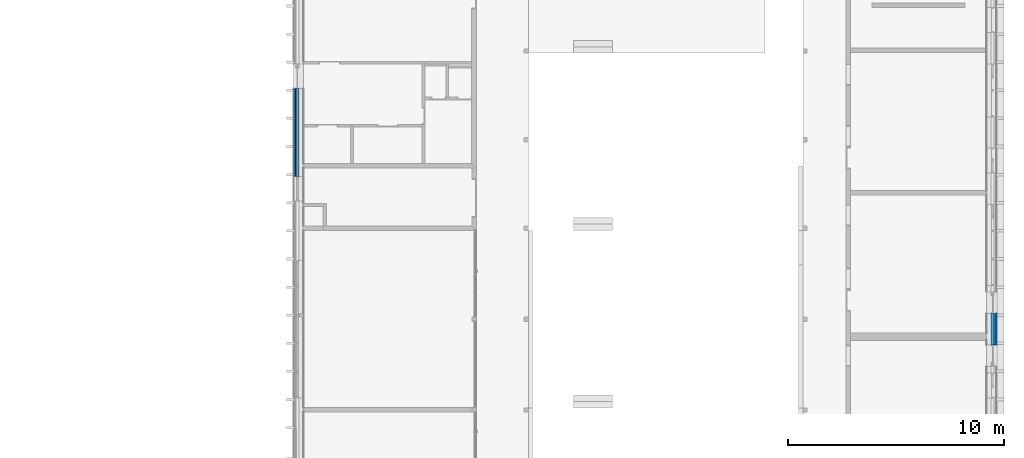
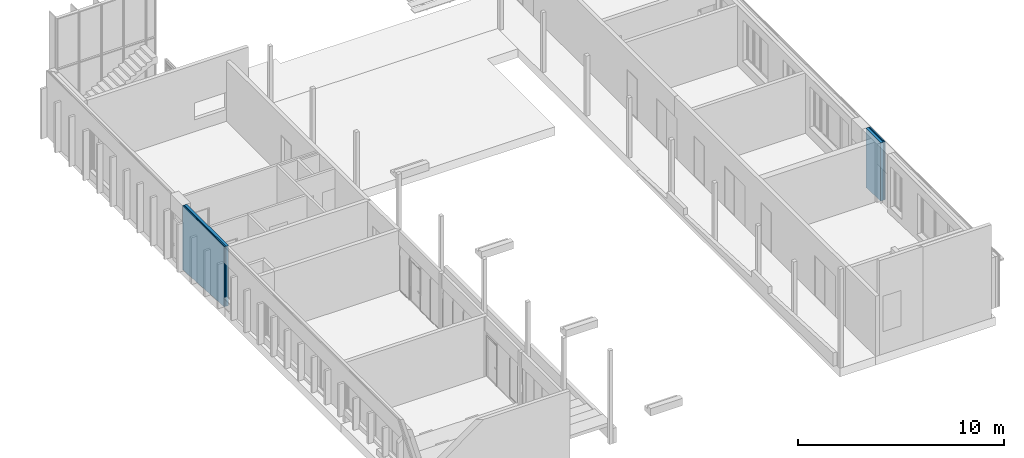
# One storey, part 37 of 65: 7 building element parts, 2 elements without a shape of their own.
"""IFC2X3 building model written with IfcOpenShell, lengths in millimetres."""

from ifc_helpers import new_model, entity, si_unit, converted_unit, derived_unit, money_unit, direction, frame, origin_with_axes, place, context, subcontext, project, spatial, polyline, outline, extrude, boolean, faceted_brep, material, type_object, element, aggregate, save


model = new_model("IFC2X3")

# Units and contexts
model_context = context("Model", 3, precision=0.01, world=origin_with_axes(), true_north=direction((0.0, 1.0)))
body_context = subcontext(model_context, "Body", "Model", "MODEL_VIEW")
ifc_project = project(units=[si_unit("LENGTHUNIT", "METRE", prefix="MILLI"), si_unit("AREAUNIT", "SQUARE_METRE"), si_unit("VOLUMEUNIT", "CUBIC_METRE"), converted_unit("PLANEANGLEUNIT", "DEGREE", entity("IfcPlaneAngleMeasure", 0.0174532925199), si_unit("PLANEANGLEUNIT", "RADIAN"), dimensions=[0, 0, 0, 0, 0, 0, 0]), si_unit("SOLIDANGLEUNIT", "STERADIAN"), money_unit("EUR"), converted_unit("TIMEUNIT", "Year", entity("IfcTimeMeasure", 31556926.0), si_unit("TIMEUNIT", "SECOND"), dimensions=[0, 0, 1, 0, 0, 0, 0]), si_unit("MASSUNIT", "GRAM", prefix="KILO"), si_unit("THERMODYNAMICTEMPERATUREUNIT", "DEGREE_CELSIUS"), si_unit("LUMINOUSINTENSITYUNIT", "LUMEN"), si_unit("ENERGYUNIT", "JOULE", prefix="MEGA"), derived_unit("THERMALCONDUCTANCEUNIT", [(si_unit("POWERUNIT", "WATT"), 1), (si_unit("LENGTHUNIT", "METRE"), -1), (si_unit("THERMODYNAMICTEMPERATUREUNIT", "KELVIN"), -1)]), derived_unit("SPECIFICHEATCAPACITYUNIT", [(si_unit("ENERGYUNIT", "JOULE"), 1), (si_unit("MASSUNIT", "GRAM", prefix="KILO"), -1), (si_unit("THERMODYNAMICTEMPERATUREUNIT", "KELVIN"), -1)]), derived_unit("MASSDENSITYUNIT", [(si_unit("MASSUNIT", "GRAM", prefix="KILO"), 1), (si_unit("VOLUMEUNIT", "CUBIC_METRE"), -1)])], contexts=[model_context])

# Site, building, storey
site_placement = place(None, origin_with_axes())
site = spatial("IfcSite", under=ifc_project, at=site_placement, Name="Puškini 31, Narva", CompositionType="ELEMENT")
building_placement = place(site_placement, origin_with_axes())
building = spatial("IfcBuilding", under=site, at=building_placement, Name="Narva Riigigümnaasium", CompositionType="ELEMENT")
storey_placement = place(building_placement, frame((0.0, 0.0, -1320.0), z_axis=(0.0, 0.0, 1.0), x_axis=(1.0, 0.0, 0.0)))
storey = spatial("IfcBuildingStorey", under=building, at=storey_placement, Name="1.korrus -1.32", CompositionType="ELEMENT", Elevation=-1320.0)

# Wall, building element parts
wall_type = type_object("IfcWallType", Name="G-VS-01 468", PredefinedType="NOTDEFINED")
wall_1_placement = place(storey_placement, frame((54000.000001, 171560.151272, -1980.0), z_axis=(0.0, 0.0, 1.0), x_axis=(0.0, -1.0, 0.0)))
wall_1 = element("IfcWall", 1, at=wall_1_placement, inside=storey, type_object=wall_type, Name="Välissein")
ifc_material_1 = material(Name="Salto-PIR soojustus")
building_element_part_1_placement = place(wall_1_placement, origin_with_axes())
building_element_part_1 = element("IfcBuildingElementPart", 2, at=building_element_part_1_placement, material=ifc_material_1, Name="Salto-PIR soojustus", context=body_context, shape_type="CSG", body=[
    boolean("DIFFERENCE", boolean("DIFFERENCE", boolean("DIFFERENCE", boolean("DIFFERENCE", boolean("DIFFERENCE", boolean("DIFFERENCE", boolean("DIFFERENCE", extrude(outline(polyline([(0.0, 200.0), (1450.0, 200.0), (1450.0, 350.0), (0.0, 350.0), (0.0, 200.0)])), origin_with_axes(), (0.0, 0.0, 1.0), 5539.82248474), faceted_brep([(900.151287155, 0.0, 2070.15306783), (900.151287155, 0.0, 5535.0), (0.0, 0.0, 5535.0), (0.0, 0.0, 5539.82248474), (1450.0, 0.0, 5539.82248474), (1450.0, 0.0, 5535.0), (1245.15128715, 0.0, 5535.0), (1245.15128715, 0.0, 2083.35957896), (1450.0, 0.0, 2091.20113492), (1450.0, 0.0, 0.0), (0.0, 0.0, 0.0), (0.0, 0.0, 2035.69550845), (900.151287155, -10.0, 2070.15306783), (900.151287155, -10.0, 5535.0), (0.0, -10.0, 5535.0), (0.0, -10.0, 5539.82248474), (1450.0, -10.0, 5539.82248474), (1450.0, -10.0, 5535.0), (1245.15128715, -10.0, 5535.0), (1245.15128715, -10.0, 2083.35957896), (1450.0, -10.0, 2091.20113492), (1450.0, -10.0, 0.0), (0.0, -10.0, 0.0), (0.0, -10.0, 2035.69550845)], [[[0, 1, 2, 3, 4, 5, 6, 7, 8, 9, 10, 11]], [[1, 0, 12, 13]], [[14, 2, 1, 13]], [[2, 14, 15, 3]], [[3, 15, 16, 4]], [[17, 5, 4, 16]], [[5, 17, 18, 6]], [[7, 6, 18, 19]], [[8, 7, 19, 20]], [[8, 20, 21, 9]], [[21, 22, 10, 9]], [[23, 11, 10, 22]], [[0, 11, 23, 12]], [[12, 23, 22, 21, 20, 19, 18, 17, 16, 15, 14, 13]]])), faceted_brep([(0.0, 0.0, 2035.69550845), (0.0, 199.99999771, 2035.69550845), (0.0, 200.0, 0.0), (0.0, 0.0, 0.0), (1450.0, 199.999997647, 2091.20113492), (900.151287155, 0.0, 2070.15306783), (1245.15128715, 0.0, 2083.35957896), (1450.0, 0.0, 2091.20113492), (1450.0, 200.0, 0.0), (1450.0, 0.0, 0.0)], [[[0, 1, 2, 3]], [[4, 1, 0, 5, 6, 7]], [[1, 4, 8, 2]], [[9, 3, 2, 8]], [[5, 0, 3, 9, 7, 6]], [[4, 7, 9, 8]]])), faceted_brep([(1450.0, 199.999993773, 5535.0), (0.0, 199.999993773, 5535.0), (0.0, 200.0, 5539.82248474), (1450.0, 200.0, 5539.82248474), (0.0, 0.0, 5535.0), (1450.0, 0.0, 5535.0), (0.0, 0.0, 5539.82248474), (1450.0, 0.0, 5539.82248474)], [[[0, 1, 2, 3]], [[4, 1, 0, 5]], [[1, 4, 6, 2]], [[2, 6, 7, 3]], [[5, 0, 3, 7]], [[5, 7, 6, 4]]])), faceted_brep([(0.0, 199.99999771, 2035.69550845), (0.0, 350.0, 2035.69550845), (0.0, 350.0, 0.0), (0.0, 200.0, 0.0), (1450.0, 350.0, 2091.20113492), (1450.0, 199.999997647, 2091.20113492), (1450.0, 350.0, 0.0), (1450.0, 200.0, 0.0)], [[[0, 1, 2, 3]], [[4, 1, 0, 5]], [[1, 4, 6, 2]], [[7, 3, 2, 6]], [[5, 0, 3, 7]], [[4, 5, 7, 6]]])), faceted_brep([(0.0, 350.0, 2035.69550845), (0.0, 400.0, 2035.69550845), (0.0, 400.0, 0.0), (0.0, 350.0, 0.0), (1450.0, 400.0, 2091.20113492), (1450.0, 350.0, 2091.20113492), (1450.0, 400.0, 0.0), (1450.0, 350.0, 0.0)], [[[0, 1, 2, 3]], [[4, 1, 0, 5]], [[1, 4, 6, 2]], [[7, 3, 2, 6]], [[5, 0, 3, 7]], [[4, 5, 7, 6]]])), faceted_brep([(0.0, 400.0, 2035.69550845), (0.0, 450.0, 2035.69550845), (0.0, 450.0, 0.0), (0.0, 400.0, 0.0), (1450.0, 450.0, 2091.20113492), (1450.0, 400.0, 2091.20113492), (1450.0, 450.0, 0.0), (1450.0, 400.0, 0.0)], [[[0, 1, 2, 3]], [[4, 1, 0, 5]], [[1, 4, 6, 2]], [[7, 3, 2, 6]], [[5, 0, 3, 7]], [[4, 5, 7, 6]]])), faceted_brep([(0.0, 450.0, 2035.69550845), (0.0, 458.0, 2035.69550845), (0.0, 458.0, 0.0), (0.0, 450.0, 0.0), (1450.0, 458.0, 2091.20113492), (1450.0, 450.0, 2091.20113492), (1450.0, 458.0, 0.0), (1450.0, 450.0, 0.0)], [[[0, 1, 2, 3]], [[4, 1, 0, 5]], [[1, 4, 6, 2]], [[7, 3, 2, 6]], [[5, 0, 3, 7]], [[4, 5, 7, 6]]])),
])
building_element_part_2_placement = place(wall_1_placement, origin_with_axes())
building_element_part_2 = element("IfcBuildingElementPart", 3, at=building_element_part_2_placement, material=ifc_material_1, Name="Salto-PIR soojustus", context=body_context, shape_type="CSG", body=[
    boolean("DIFFERENCE", boolean("DIFFERENCE", boolean("DIFFERENCE", boolean("DIFFERENCE", boolean("DIFFERENCE", boolean("DIFFERENCE", boolean("DIFFERENCE", extrude(outline(polyline([(0.0, 350.0), (1450.0, 350.0), (1450.0, 400.0), (0.0, 400.0), (0.0, 350.0)])), origin_with_axes(), (0.0, 0.0, 1.0), 5539.82248474), faceted_brep([(900.151287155, 0.0, 2070.15306783), (900.151287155, 0.0, 5535.0), (0.0, 0.0, 5535.0), (0.0, 0.0, 5539.82248474), (1450.0, 0.0, 5539.82248474), (1450.0, 0.0, 5535.0), (1245.15128715, 0.0, 5535.0), (1245.15128715, 0.0, 2083.35957896), (1450.0, 0.0, 2091.20113492), (1450.0, 0.0, 0.0), (0.0, 0.0, 0.0), (0.0, 0.0, 2035.69550845), (900.151287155, -10.0, 2070.15306783), (900.151287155, -10.0, 5535.0), (0.0, -10.0, 5535.0), (0.0, -10.0, 5539.82248474), (1450.0, -10.0, 5539.82248474), (1450.0, -10.0, 5535.0), (1245.15128715, -10.0, 5535.0), (1245.15128715, -10.0, 2083.35957896), (1450.0, -10.0, 2091.20113492), (1450.0, -10.0, 0.0), (0.0, -10.0, 0.0), (0.0, -10.0, 2035.69550845)], [[[0, 1, 2, 3, 4, 5, 6, 7, 8, 9, 10, 11]], [[1, 0, 12, 13]], [[14, 2, 1, 13]], [[2, 14, 15, 3]], [[3, 15, 16, 4]], [[17, 5, 4, 16]], [[5, 17, 18, 6]], [[7, 6, 18, 19]], [[8, 7, 19, 20]], [[8, 20, 21, 9]], [[21, 22, 10, 9]], [[23, 11, 10, 22]], [[0, 11, 23, 12]], [[12, 23, 22, 21, 20, 19, 18, 17, 16, 15, 14, 13]]])), faceted_brep([(0.0, 0.0, 2035.69550845), (0.0, 199.99999771, 2035.69550845), (0.0, 200.0, 0.0), (0.0, 0.0, 0.0), (1450.0, 199.999997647, 2091.20113492), (900.151287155, 0.0, 2070.15306783), (1245.15128715, 0.0, 2083.35957896), (1450.0, 0.0, 2091.20113492), (1450.0, 200.0, 0.0), (1450.0, 0.0, 0.0)], [[[0, 1, 2, 3]], [[4, 1, 0, 5, 6, 7]], [[1, 4, 8, 2]], [[9, 3, 2, 8]], [[5, 0, 3, 9, 7, 6]], [[4, 7, 9, 8]]])), faceted_brep([(1450.0, 199.999993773, 5535.0), (0.0, 199.999993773, 5535.0), (0.0, 200.0, 5539.82248474), (1450.0, 200.0, 5539.82248474), (0.0, 0.0, 5535.0), (1450.0, 0.0, 5535.0), (0.0, 0.0, 5539.82248474), (1450.0, 0.0, 5539.82248474)], [[[0, 1, 2, 3]], [[4, 1, 0, 5]], [[1, 4, 6, 2]], [[2, 6, 7, 3]], [[5, 0, 3, 7]], [[5, 7, 6, 4]]])), faceted_brep([(0.0, 199.99999771, 2035.69550845), (0.0, 350.0, 2035.69550845), (0.0, 350.0, 0.0), (0.0, 200.0, 0.0), (1450.0, 350.0, 2091.20113492), (1450.0, 199.999997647, 2091.20113492), (1450.0, 350.0, 0.0), (1450.0, 200.0, 0.0)], [[[0, 1, 2, 3]], [[4, 1, 0, 5]], [[1, 4, 6, 2]], [[7, 3, 2, 6]], [[5, 0, 3, 7]], [[4, 5, 7, 6]]])), faceted_brep([(0.0, 350.0, 2035.69550845), (0.0, 400.0, 2035.69550845), (0.0, 400.0, 0.0), (0.0, 350.0, 0.0), (1450.0, 400.0, 2091.20113492), (1450.0, 350.0, 2091.20113492), (1450.0, 400.0, 0.0), (1450.0, 350.0, 0.0)], [[[0, 1, 2, 3]], [[4, 1, 0, 5]], [[1, 4, 6, 2]], [[7, 3, 2, 6]], [[5, 0, 3, 7]], [[4, 5, 7, 6]]])), faceted_brep([(0.0, 400.0, 2035.69550845), (0.0, 450.0, 2035.69550845), (0.0, 450.0, 0.0), (0.0, 400.0, 0.0), (1450.0, 450.0, 2091.20113492), (1450.0, 400.0, 2091.20113492), (1450.0, 450.0, 0.0), (1450.0, 400.0, 0.0)], [[[0, 1, 2, 3]], [[4, 1, 0, 5]], [[1, 4, 6, 2]], [[7, 3, 2, 6]], [[5, 0, 3, 7]], [[4, 5, 7, 6]]])), faceted_brep([(0.0, 450.0, 2035.69550845), (0.0, 458.0, 2035.69550845), (0.0, 458.0, 0.0), (0.0, 450.0, 0.0), (1450.0, 458.0, 2091.20113492), (1450.0, 450.0, 2091.20113492), (1450.0, 458.0, 0.0), (1450.0, 450.0, 0.0)], [[[0, 1, 2, 3]], [[4, 1, 0, 5]], [[1, 4, 6, 2]], [[7, 3, 2, 6]], [[5, 0, 3, 7]], [[4, 5, 7, 6]]])),
])
ifc_material_2 = material(Name="Salto-roovitus")
building_element_part_3_placement = place(wall_1_placement, origin_with_axes())
building_element_part_3 = element("IfcBuildingElementPart", 4, at=building_element_part_3_placement, material=ifc_material_2, Name="Salto-roovitus", context=body_context, shape_type="CSG", body=[
    boolean("DIFFERENCE", boolean("DIFFERENCE", boolean("DIFFERENCE", boolean("DIFFERENCE", boolean("DIFFERENCE", boolean("DIFFERENCE", boolean("DIFFERENCE", extrude(outline(polyline([(0.0, 400.0), (1450.0, 400.0), (1450.0, 450.0), (0.0, 450.0), (0.0, 400.0)])), origin_with_axes(), (0.0, 0.0, 1.0), 5539.82248474), faceted_brep([(900.151287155, 0.0, 2070.15306783), (900.151287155, 0.0, 5535.0), (0.0, 0.0, 5535.0), (0.0, 0.0, 5539.82248474), (1450.0, 0.0, 5539.82248474), (1450.0, 0.0, 5535.0), (1245.15128715, 0.0, 5535.0), (1245.15128715, 0.0, 2083.35957896), (1450.0, 0.0, 2091.20113492), (1450.0, 0.0, 0.0), (0.0, 0.0, 0.0), (0.0, 0.0, 2035.69550845), (900.151287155, -10.0, 2070.15306783), (900.151287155, -10.0, 5535.0), (0.0, -10.0, 5535.0), (0.0, -10.0, 5539.82248474), (1450.0, -10.0, 5539.82248474), (1450.0, -10.0, 5535.0), (1245.15128715, -10.0, 5535.0), (1245.15128715, -10.0, 2083.35957896), (1450.0, -10.0, 2091.20113492), (1450.0, -10.0, 0.0), (0.0, -10.0, 0.0), (0.0, -10.0, 2035.69550845)], [[[0, 1, 2, 3, 4, 5, 6, 7, 8, 9, 10, 11]], [[1, 0, 12, 13]], [[14, 2, 1, 13]], [[2, 14, 15, 3]], [[3, 15, 16, 4]], [[17, 5, 4, 16]], [[5, 17, 18, 6]], [[7, 6, 18, 19]], [[8, 7, 19, 20]], [[8, 20, 21, 9]], [[21, 22, 10, 9]], [[23, 11, 10, 22]], [[0, 11, 23, 12]], [[12, 23, 22, 21, 20, 19, 18, 17, 16, 15, 14, 13]]])), faceted_brep([(0.0, 0.0, 2035.69550845), (0.0, 199.99999771, 2035.69550845), (0.0, 200.0, 0.0), (0.0, 0.0, 0.0), (1450.0, 199.999997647, 2091.20113492), (900.151287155, 0.0, 2070.15306783), (1245.15128715, 0.0, 2083.35957896), (1450.0, 0.0, 2091.20113492), (1450.0, 200.0, 0.0), (1450.0, 0.0, 0.0)], [[[0, 1, 2, 3]], [[4, 1, 0, 5, 6, 7]], [[1, 4, 8, 2]], [[9, 3, 2, 8]], [[5, 0, 3, 9, 7, 6]], [[4, 7, 9, 8]]])), faceted_brep([(1450.0, 199.999993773, 5535.0), (0.0, 199.999993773, 5535.0), (0.0, 200.0, 5539.82248474), (1450.0, 200.0, 5539.82248474), (0.0, 0.0, 5535.0), (1450.0, 0.0, 5535.0), (0.0, 0.0, 5539.82248474), (1450.0, 0.0, 5539.82248474)], [[[0, 1, 2, 3]], [[4, 1, 0, 5]], [[1, 4, 6, 2]], [[2, 6, 7, 3]], [[5, 0, 3, 7]], [[5, 7, 6, 4]]])), faceted_brep([(0.0, 199.99999771, 2035.69550845), (0.0, 350.0, 2035.69550845), (0.0, 350.0, 0.0), (0.0, 200.0, 0.0), (1450.0, 350.0, 2091.20113492), (1450.0, 199.999997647, 2091.20113492), (1450.0, 350.0, 0.0), (1450.0, 200.0, 0.0)], [[[0, 1, 2, 3]], [[4, 1, 0, 5]], [[1, 4, 6, 2]], [[7, 3, 2, 6]], [[5, 0, 3, 7]], [[4, 5, 7, 6]]])), faceted_brep([(0.0, 350.0, 2035.69550845), (0.0, 400.0, 2035.69550845), (0.0, 400.0, 0.0), (0.0, 350.0, 0.0), (1450.0, 400.0, 2091.20113492), (1450.0, 350.0, 2091.20113492), (1450.0, 400.0, 0.0), (1450.0, 350.0, 0.0)], [[[0, 1, 2, 3]], [[4, 1, 0, 5]], [[1, 4, 6, 2]], [[7, 3, 2, 6]], [[5, 0, 3, 7]], [[4, 5, 7, 6]]])), faceted_brep([(0.0, 400.0, 2035.69550845), (0.0, 450.0, 2035.69550845), (0.0, 450.0, 0.0), (0.0, 400.0, 0.0), (1450.0, 450.0, 2091.20113492), (1450.0, 400.0, 2091.20113492), (1450.0, 450.0, 0.0), (1450.0, 400.0, 0.0)], [[[0, 1, 2, 3]], [[4, 1, 0, 5]], [[1, 4, 6, 2]], [[7, 3, 2, 6]], [[5, 0, 3, 7]], [[4, 5, 7, 6]]])), faceted_brep([(0.0, 450.0, 2035.69550845), (0.0, 458.0, 2035.69550845), (0.0, 458.0, 0.0), (0.0, 450.0, 0.0), (1450.0, 458.0, 2091.20113492), (1450.0, 450.0, 2091.20113492), (1450.0, 458.0, 0.0), (1450.0, 450.0, 0.0)], [[[0, 1, 2, 3]], [[4, 1, 0, 5]], [[1, 4, 6, 2]], [[7, 3, 2, 6]], [[5, 0, 3, 7]], [[4, 5, 7, 6]]])),
])
ifc_material_3 = material(Name="fassaadiplaat")
building_element_part_4_placement = place(wall_1_placement, origin_with_axes())
building_element_part_4 = element("IfcBuildingElementPart", 5, at=building_element_part_4_placement, material=ifc_material_3, Name="fassaadiplaat", context=body_context, shape_type="CSG", body=[
    boolean("DIFFERENCE", boolean("DIFFERENCE", boolean("DIFFERENCE", boolean("DIFFERENCE", boolean("DIFFERENCE", boolean("DIFFERENCE", boolean("DIFFERENCE", extrude(outline(polyline([(0.0, 450.0), (1450.0, 450.0), (1450.0, 458.0), (0.0, 458.0), (0.0, 450.0)])), origin_with_axes(), (0.0, 0.0, 1.0), 5539.82248474), faceted_brep([(900.151287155, 0.0, 2070.15306783), (900.151287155, 0.0, 5535.0), (0.0, 0.0, 5535.0), (0.0, 0.0, 5539.82248474), (1450.0, 0.0, 5539.82248474), (1450.0, 0.0, 5535.0), (1245.15128715, 0.0, 5535.0), (1245.15128715, 0.0, 2083.35957896), (1450.0, 0.0, 2091.20113492), (1450.0, 0.0, 0.0), (0.0, 0.0, 0.0), (0.0, 0.0, 2035.69550845), (900.151287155, -10.0, 2070.15306783), (900.151287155, -10.0, 5535.0), (0.0, -10.0, 5535.0), (0.0, -10.0, 5539.82248474), (1450.0, -10.0, 5539.82248474), (1450.0, -10.0, 5535.0), (1245.15128715, -10.0, 5535.0), (1245.15128715, -10.0, 2083.35957896), (1450.0, -10.0, 2091.20113492), (1450.0, -10.0, 0.0), (0.0, -10.0, 0.0), (0.0, -10.0, 2035.69550845)], [[[0, 1, 2, 3, 4, 5, 6, 7, 8, 9, 10, 11]], [[1, 0, 12, 13]], [[14, 2, 1, 13]], [[2, 14, 15, 3]], [[3, 15, 16, 4]], [[17, 5, 4, 16]], [[5, 17, 18, 6]], [[7, 6, 18, 19]], [[8, 7, 19, 20]], [[8, 20, 21, 9]], [[21, 22, 10, 9]], [[23, 11, 10, 22]], [[0, 11, 23, 12]], [[12, 23, 22, 21, 20, 19, 18, 17, 16, 15, 14, 13]]])), faceted_brep([(0.0, 0.0, 2035.69550845), (0.0, 199.99999771, 2035.69550845), (0.0, 200.0, 0.0), (0.0, 0.0, 0.0), (1450.0, 199.999997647, 2091.20113492), (900.151287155, 0.0, 2070.15306783), (1245.15128715, 0.0, 2083.35957896), (1450.0, 0.0, 2091.20113492), (1450.0, 200.0, 0.0), (1450.0, 0.0, 0.0)], [[[0, 1, 2, 3]], [[4, 1, 0, 5, 6, 7]], [[1, 4, 8, 2]], [[9, 3, 2, 8]], [[5, 0, 3, 9, 7, 6]], [[4, 7, 9, 8]]])), faceted_brep([(1450.0, 199.999993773, 5535.0), (0.0, 199.999993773, 5535.0), (0.0, 200.0, 5539.82248474), (1450.0, 200.0, 5539.82248474), (0.0, 0.0, 5535.0), (1450.0, 0.0, 5535.0), (0.0, 0.0, 5539.82248474), (1450.0, 0.0, 5539.82248474)], [[[0, 1, 2, 3]], [[4, 1, 0, 5]], [[1, 4, 6, 2]], [[2, 6, 7, 3]], [[5, 0, 3, 7]], [[5, 7, 6, 4]]])), faceted_brep([(0.0, 199.99999771, 2035.69550845), (0.0, 350.0, 2035.69550845), (0.0, 350.0, 0.0), (0.0, 200.0, 0.0), (1450.0, 350.0, 2091.20113492), (1450.0, 199.999997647, 2091.20113492), (1450.0, 350.0, 0.0), (1450.0, 200.0, 0.0)], [[[0, 1, 2, 3]], [[4, 1, 0, 5]], [[1, 4, 6, 2]], [[7, 3, 2, 6]], [[5, 0, 3, 7]], [[4, 5, 7, 6]]])), faceted_brep([(0.0, 350.0, 2035.69550845), (0.0, 400.0, 2035.69550845), (0.0, 400.0, 0.0), (0.0, 350.0, 0.0), (1450.0, 400.0, 2091.20113492), (1450.0, 350.0, 2091.20113492), (1450.0, 400.0, 0.0), (1450.0, 350.0, 0.0)], [[[0, 1, 2, 3]], [[4, 1, 0, 5]], [[1, 4, 6, 2]], [[7, 3, 2, 6]], [[5, 0, 3, 7]], [[4, 5, 7, 6]]])), faceted_brep([(0.0, 400.0, 2035.69550845), (0.0, 450.0, 2035.69550845), (0.0, 450.0, 0.0), (0.0, 400.0, 0.0), (1450.0, 450.0, 2091.20113492), (1450.0, 400.0, 2091.20113492), (1450.0, 450.0, 0.0), (1450.0, 400.0, 0.0)], [[[0, 1, 2, 3]], [[4, 1, 0, 5]], [[1, 4, 6, 2]], [[7, 3, 2, 6]], [[5, 0, 3, 7]], [[4, 5, 7, 6]]])), faceted_brep([(0.0, 450.0, 2035.69550845), (0.0, 458.0, 2035.69550845), (0.0, 458.0, 0.0), (0.0, 450.0, 0.0), (1450.0, 458.0, 2091.20113492), (1450.0, 450.0, 2091.20113492), (1450.0, 458.0, 0.0), (1450.0, 450.0, 0.0)], [[[0, 1, 2, 3]], [[4, 1, 0, 5]], [[1, 4, 6, 2]], [[7, 3, 2, 6]], [[5, 0, 3, 7]], [[4, 5, 7, 6]]])),
])
aggregate(wall_1, [building_element_part_1, building_element_part_2, building_element_part_3, building_element_part_4])

wall_2_placement = place(storey_placement, frame((22399.9999985, 177910.149991, -800.0), z_axis=(0.0, 0.0, 1.0), x_axis=(0.0, 1.0, 0.0)))
wall_2 = element("IfcWall", 6, at=wall_2_placement, inside=storey, type_object=wall_type, Name="Välissein")
building_element_part_5_placement = place(wall_2_placement, origin_with_axes())
building_element_part_5 = element("IfcBuildingElementPart", 7, at=building_element_part_5_placement, material=ifc_material_1, Name="Salto-PIR soojustus", context=body_context, shape_type="CSG", body=[
    boolean("DIFFERENCE", boolean("DIFFERENCE", boolean("DIFFERENCE", boolean("DIFFERENCE", boolean("DIFFERENCE", boolean("DIFFERENCE", boolean("DIFFERENCE", extrude(outline(polyline([(0.0, 200.0), (4050.0, 200.0), (4050.0, 350.0), (0.0, 350.0), (0.0, 200.0)])), origin_with_axes(), (0.0, 0.0, 1.0), 4760.0), faceted_brep([(2389.85001883, 0.0, 1070.6765254), (4050.0, 0.0, 974.423502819), (4050.0, 0.0, 0.0), (0.0, 0.0, 0.0), (0.0, 0.0, 1209.23646904), (389.850018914, 0.0, 1186.63354575), (389.850018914, 0.0, 4355.0), (0.0, 0.0, 4355.0), (0.0, 0.0, 4760.0), (4050.0, 0.0, 4760.0), (4050.0, 0.0, 4355.0), (2389.85001883, 0.0, 4355.0), (589.850018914, 0.0, 1175.03784371), (2289.85001883, 0.0, 1076.47437642), (2289.85001883, 0.0, 4355.0), (589.850018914, 0.0, 4355.0), (2389.85001883, -10.0, 1070.6765254), (4050.0, -10.0, 974.423502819), (4050.0, -10.0, 0.0), (0.0, -10.0, 0.0), (0.0, -10.0, 1209.23646904), (389.850018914, -10.0, 1186.63354575), (389.850018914, -10.0, 4355.0), (0.0, -10.0, 4355.0), (0.0, -10.0, 4760.0), (4050.0, -10.0, 4760.0), (4050.0, -10.0, 4355.0), (2389.85001883, -10.0, 4355.0), (589.850018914, -10.0, 1175.03784371), (2289.85001883, -10.0, 1076.47437642), (2289.85001883, -10.0, 4355.0), (589.850018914, -10.0, 4355.0)], [[[0, 1, 2, 3, 4, 5, 6, 7, 8, 9, 10, 11], [12, 13, 14, 15]], [[16, 17, 1, 0]], [[1, 17, 18, 2]], [[18, 19, 3, 2]], [[20, 4, 3, 19]], [[20, 21, 5, 4]], [[21, 22, 6, 5]], [[22, 23, 7, 6]], [[7, 23, 24, 8]], [[8, 24, 25, 9]], [[26, 10, 9, 25]], [[10, 26, 27, 11]], [[27, 16, 0, 11]], [[28, 29, 13, 12]], [[29, 30, 14, 13]], [[30, 31, 15, 14]], [[31, 28, 12, 15]], [[16, 27, 26, 25, 24, 23, 22, 21, 20, 19, 18, 17], [28, 31, 30, 29]]])), faceted_brep([(4050.0, 199.999989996, 974.423502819), (4050.0, 0.0, 974.423502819), (4050.0, 0.0, 0.0), (4050.0, 200.0, 0.0), (2389.85001883, 0.0, 1070.6765254), (0.0, 199.999987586, 1209.23646904), (0.0, 0.0, 1209.23646904), (389.850018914, 0.0, 1186.63354575), (589.850018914, 0.0, 1175.03784371), (2289.85001883, 0.0, 1076.47437642), (0.0, 0.0, 0.0), (0.0, 200.0, 0.0)], [[[0, 1, 2, 3]], [[4, 1, 0, 5, 6, 7, 8, 9]], [[7, 6, 10, 2, 1, 4, 9, 8]], [[2, 10, 11, 3]], [[5, 0, 3, 11]], [[6, 5, 11, 10]]])), faceted_brep([(4050.0, 0.0, 4355.0), (4050.0, 0.0, 4760.0), (0.0, 0.0, 4760.0), (0.0, 0.0, 4355.0), (4050.0, 199.999955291, 4355.0), (4050.0, 200.0, 4760.0), (0.0, 200.0, 4760.0), (0.0, 199.999955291, 4355.0)], [[[0, 1, 2, 3]], [[0, 4, 5, 1]], [[6, 2, 1, 5]], [[7, 3, 2, 6]], [[4, 0, 3, 7]], [[4, 7, 6, 5]]])), faceted_brep([(4050.0, 350.0, 974.423502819), (4050.0, 199.999989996, 974.423502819), (4050.0, 200.0, 0.0), (4050.0, 350.0, 0.0), (0.0, 199.999987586, 1209.23646904), (0.0, 350.0, 1209.23646904), (0.0, 200.0, 0.0), (0.0, 350.0, 0.0)], [[[0, 1, 2, 3]], [[4, 1, 0, 5]], [[1, 4, 6, 2]], [[2, 6, 7, 3]], [[5, 0, 3, 7]], [[4, 5, 7, 6]]])), faceted_brep([(4050.0, 400.0, 974.423502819), (4050.0, 350.0, 974.423502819), (4050.0, 350.0, 0.0), (4050.0, 400.0, 0.0), (0.0, 350.0, 1209.23646904), (0.0, 400.0, 1209.23646904), (0.0, 350.0, 0.0), (0.0, 400.0, 0.0)], [[[0, 1, 2, 3]], [[4, 1, 0, 5]], [[1, 4, 6, 2]], [[2, 6, 7, 3]], [[5, 0, 3, 7]], [[4, 5, 7, 6]]])), faceted_brep([(4050.0, 450.0, 974.423502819), (4050.0, 400.0, 974.423502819), (4050.0, 400.0, 0.0), (4050.0, 450.0, 0.0), (0.0, 400.0, 1209.23646904), (0.0, 450.0, 1209.23646904), (0.0, 400.0, 0.0), (0.0, 450.0, 0.0)], [[[0, 1, 2, 3]], [[4, 1, 0, 5]], [[1, 4, 6, 2]], [[2, 6, 7, 3]], [[5, 0, 3, 7]], [[4, 5, 7, 6]]])), faceted_brep([(4050.0, 458.0, 974.423502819), (4050.0, 450.0, 974.423502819), (4050.0, 450.0, 0.0), (4050.0, 458.0, 0.0), (0.0, 450.0, 1209.23646904), (0.0, 458.0, 1209.23646904), (0.0, 450.0, 0.0), (0.0, 458.0, 0.0)], [[[0, 1, 2, 3]], [[4, 1, 0, 5]], [[1, 4, 6, 2]], [[2, 6, 7, 3]], [[5, 0, 3, 7]], [[4, 5, 7, 6]]])),
])
building_element_part_6_placement = place(wall_2_placement, origin_with_axes())
building_element_part_6 = element("IfcBuildingElementPart", 8, at=building_element_part_6_placement, material=ifc_material_1, Name="Salto-PIR soojustus", context=body_context, shape_type="CSG", body=[
    boolean("DIFFERENCE", boolean("DIFFERENCE", boolean("DIFFERENCE", boolean("DIFFERENCE", boolean("DIFFERENCE", boolean("DIFFERENCE", boolean("DIFFERENCE", extrude(outline(polyline([(0.0, 350.0), (4050.0, 350.0), (4050.0, 400.0), (0.0, 400.0), (0.0, 350.0)])), origin_with_axes(), (0.0, 0.0, 1.0), 4760.0), faceted_brep([(2389.85001883, 0.0, 1070.6765254), (4050.0, 0.0, 974.423502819), (4050.0, 0.0, 0.0), (0.0, 0.0, 0.0), (0.0, 0.0, 1209.23646904), (389.850018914, 0.0, 1186.63354575), (389.850018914, 0.0, 4355.0), (0.0, 0.0, 4355.0), (0.0, 0.0, 4760.0), (4050.0, 0.0, 4760.0), (4050.0, 0.0, 4355.0), (2389.85001883, 0.0, 4355.0), (589.850018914, 0.0, 1175.03784371), (2289.85001883, 0.0, 1076.47437642), (2289.85001883, 0.0, 4355.0), (589.850018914, 0.0, 4355.0), (2389.85001883, -10.0, 1070.6765254), (4050.0, -10.0, 974.423502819), (4050.0, -10.0, 0.0), (0.0, -10.0, 0.0), (0.0, -10.0, 1209.23646904), (389.850018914, -10.0, 1186.63354575), (389.850018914, -10.0, 4355.0), (0.0, -10.0, 4355.0), (0.0, -10.0, 4760.0), (4050.0, -10.0, 4760.0), (4050.0, -10.0, 4355.0), (2389.85001883, -10.0, 4355.0), (589.850018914, -10.0, 1175.03784371), (2289.85001883, -10.0, 1076.47437642), (2289.85001883, -10.0, 4355.0), (589.850018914, -10.0, 4355.0)], [[[0, 1, 2, 3, 4, 5, 6, 7, 8, 9, 10, 11], [12, 13, 14, 15]], [[16, 17, 1, 0]], [[1, 17, 18, 2]], [[18, 19, 3, 2]], [[20, 4, 3, 19]], [[20, 21, 5, 4]], [[21, 22, 6, 5]], [[22, 23, 7, 6]], [[7, 23, 24, 8]], [[8, 24, 25, 9]], [[26, 10, 9, 25]], [[10, 26, 27, 11]], [[27, 16, 0, 11]], [[28, 29, 13, 12]], [[29, 30, 14, 13]], [[30, 31, 15, 14]], [[31, 28, 12, 15]], [[16, 27, 26, 25, 24, 23, 22, 21, 20, 19, 18, 17], [28, 31, 30, 29]]])), faceted_brep([(4050.0, 199.999989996, 974.423502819), (4050.0, 0.0, 974.423502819), (4050.0, 0.0, 0.0), (4050.0, 200.0, 0.0), (2389.85001883, 0.0, 1070.6765254), (0.0, 199.999987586, 1209.23646904), (0.0, 0.0, 1209.23646904), (389.850018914, 0.0, 1186.63354575), (589.850018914, 0.0, 1175.03784371), (2289.85001883, 0.0, 1076.47437642), (0.0, 0.0, 0.0), (0.0, 200.0, 0.0)], [[[0, 1, 2, 3]], [[4, 1, 0, 5, 6, 7, 8, 9]], [[7, 6, 10, 2, 1, 4, 9, 8]], [[2, 10, 11, 3]], [[5, 0, 3, 11]], [[6, 5, 11, 10]]])), faceted_brep([(4050.0, 0.0, 4355.0), (4050.0, 0.0, 4760.0), (0.0, 0.0, 4760.0), (0.0, 0.0, 4355.0), (4050.0, 199.999955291, 4355.0), (4050.0, 200.0, 4760.0), (0.0, 200.0, 4760.0), (0.0, 199.999955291, 4355.0)], [[[0, 1, 2, 3]], [[0, 4, 5, 1]], [[6, 2, 1, 5]], [[7, 3, 2, 6]], [[4, 0, 3, 7]], [[4, 7, 6, 5]]])), faceted_brep([(4050.0, 350.0, 974.423502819), (4050.0, 199.999989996, 974.423502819), (4050.0, 200.0, 0.0), (4050.0, 350.0, 0.0), (0.0, 199.999987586, 1209.23646904), (0.0, 350.0, 1209.23646904), (0.0, 200.0, 0.0), (0.0, 350.0, 0.0)], [[[0, 1, 2, 3]], [[4, 1, 0, 5]], [[1, 4, 6, 2]], [[2, 6, 7, 3]], [[5, 0, 3, 7]], [[4, 5, 7, 6]]])), faceted_brep([(4050.0, 400.0, 974.423502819), (4050.0, 350.0, 974.423502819), (4050.0, 350.0, 0.0), (4050.0, 400.0, 0.0), (0.0, 350.0, 1209.23646904), (0.0, 400.0, 1209.23646904), (0.0, 350.0, 0.0), (0.0, 400.0, 0.0)], [[[0, 1, 2, 3]], [[4, 1, 0, 5]], [[1, 4, 6, 2]], [[2, 6, 7, 3]], [[5, 0, 3, 7]], [[4, 5, 7, 6]]])), faceted_brep([(4050.0, 450.0, 974.423502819), (4050.0, 400.0, 974.423502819), (4050.0, 400.0, 0.0), (4050.0, 450.0, 0.0), (0.0, 400.0, 1209.23646904), (0.0, 450.0, 1209.23646904), (0.0, 400.0, 0.0), (0.0, 450.0, 0.0)], [[[0, 1, 2, 3]], [[4, 1, 0, 5]], [[1, 4, 6, 2]], [[2, 6, 7, 3]], [[5, 0, 3, 7]], [[4, 5, 7, 6]]])), faceted_brep([(4050.0, 458.0, 974.423502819), (4050.0, 450.0, 974.423502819), (4050.0, 450.0, 0.0), (4050.0, 458.0, 0.0), (0.0, 450.0, 1209.23646904), (0.0, 458.0, 1209.23646904), (0.0, 450.0, 0.0), (0.0, 458.0, 0.0)], [[[0, 1, 2, 3]], [[4, 1, 0, 5]], [[1, 4, 6, 2]], [[2, 6, 7, 3]], [[5, 0, 3, 7]], [[4, 5, 7, 6]]])),
])
building_element_part_7_placement = place(wall_2_placement, origin_with_axes())
building_element_part_7 = element("IfcBuildingElementPart", 9, at=building_element_part_7_placement, material=ifc_material_2, Name="Salto-roovitus", context=body_context, shape_type="CSG", body=[
    boolean("DIFFERENCE", boolean("DIFFERENCE", boolean("DIFFERENCE", boolean("DIFFERENCE", boolean("DIFFERENCE", boolean("DIFFERENCE", boolean("DIFFERENCE", extrude(outline(polyline([(0.0, 400.0), (4050.0, 400.0), (4050.0, 450.0), (0.0, 450.0), (0.0, 400.0)])), origin_with_axes(), (0.0, 0.0, 1.0), 4760.0), faceted_brep([(2389.85001883, 0.0, 1070.6765254), (4050.0, 0.0, 974.423502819), (4050.0, 0.0, 0.0), (0.0, 0.0, 0.0), (0.0, 0.0, 1209.23646904), (389.850018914, 0.0, 1186.63354575), (389.850018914, 0.0, 4355.0), (0.0, 0.0, 4355.0), (0.0, 0.0, 4760.0), (4050.0, 0.0, 4760.0), (4050.0, 0.0, 4355.0), (2389.85001883, 0.0, 4355.0), (589.850018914, 0.0, 1175.03784371), (2289.85001883, 0.0, 1076.47437642), (2289.85001883, 0.0, 4355.0), (589.850018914, 0.0, 4355.0), (2389.85001883, -10.0, 1070.6765254), (4050.0, -10.0, 974.423502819), (4050.0, -10.0, 0.0), (0.0, -10.0, 0.0), (0.0, -10.0, 1209.23646904), (389.850018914, -10.0, 1186.63354575), (389.850018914, -10.0, 4355.0), (0.0, -10.0, 4355.0), (0.0, -10.0, 4760.0), (4050.0, -10.0, 4760.0), (4050.0, -10.0, 4355.0), (2389.85001883, -10.0, 4355.0), (589.850018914, -10.0, 1175.03784371), (2289.85001883, -10.0, 1076.47437642), (2289.85001883, -10.0, 4355.0), (589.850018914, -10.0, 4355.0)], [[[0, 1, 2, 3, 4, 5, 6, 7, 8, 9, 10, 11], [12, 13, 14, 15]], [[16, 17, 1, 0]], [[1, 17, 18, 2]], [[18, 19, 3, 2]], [[20, 4, 3, 19]], [[20, 21, 5, 4]], [[21, 22, 6, 5]], [[22, 23, 7, 6]], [[7, 23, 24, 8]], [[8, 24, 25, 9]], [[26, 10, 9, 25]], [[10, 26, 27, 11]], [[27, 16, 0, 11]], [[28, 29, 13, 12]], [[29, 30, 14, 13]], [[30, 31, 15, 14]], [[31, 28, 12, 15]], [[16, 27, 26, 25, 24, 23, 22, 21, 20, 19, 18, 17], [28, 31, 30, 29]]])), faceted_brep([(4050.0, 199.999989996, 974.423502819), (4050.0, 0.0, 974.423502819), (4050.0, 0.0, 0.0), (4050.0, 200.0, 0.0), (2389.85001883, 0.0, 1070.6765254), (0.0, 199.999987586, 1209.23646904), (0.0, 0.0, 1209.23646904), (389.850018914, 0.0, 1186.63354575), (589.850018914, 0.0, 1175.03784371), (2289.85001883, 0.0, 1076.47437642), (0.0, 0.0, 0.0), (0.0, 200.0, 0.0)], [[[0, 1, 2, 3]], [[4, 1, 0, 5, 6, 7, 8, 9]], [[7, 6, 10, 2, 1, 4, 9, 8]], [[2, 10, 11, 3]], [[5, 0, 3, 11]], [[6, 5, 11, 10]]])), faceted_brep([(4050.0, 0.0, 4355.0), (4050.0, 0.0, 4760.0), (0.0, 0.0, 4760.0), (0.0, 0.0, 4355.0), (4050.0, 199.999955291, 4355.0), (4050.0, 200.0, 4760.0), (0.0, 200.0, 4760.0), (0.0, 199.999955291, 4355.0)], [[[0, 1, 2, 3]], [[0, 4, 5, 1]], [[6, 2, 1, 5]], [[7, 3, 2, 6]], [[4, 0, 3, 7]], [[4, 7, 6, 5]]])), faceted_brep([(4050.0, 350.0, 974.423502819), (4050.0, 199.999989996, 974.423502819), (4050.0, 200.0, 0.0), (4050.0, 350.0, 0.0), (0.0, 199.999987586, 1209.23646904), (0.0, 350.0, 1209.23646904), (0.0, 200.0, 0.0), (0.0, 350.0, 0.0)], [[[0, 1, 2, 3]], [[4, 1, 0, 5]], [[1, 4, 6, 2]], [[2, 6, 7, 3]], [[5, 0, 3, 7]], [[4, 5, 7, 6]]])), faceted_brep([(4050.0, 400.0, 974.423502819), (4050.0, 350.0, 974.423502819), (4050.0, 350.0, 0.0), (4050.0, 400.0, 0.0), (0.0, 350.0, 1209.23646904), (0.0, 400.0, 1209.23646904), (0.0, 350.0, 0.0), (0.0, 400.0, 0.0)], [[[0, 1, 2, 3]], [[4, 1, 0, 5]], [[1, 4, 6, 2]], [[2, 6, 7, 3]], [[5, 0, 3, 7]], [[4, 5, 7, 6]]])), faceted_brep([(4050.0, 450.0, 974.423502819), (4050.0, 400.0, 974.423502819), (4050.0, 400.0, 0.0), (4050.0, 450.0, 0.0), (0.0, 400.0, 1209.23646904), (0.0, 450.0, 1209.23646904), (0.0, 400.0, 0.0), (0.0, 450.0, 0.0)], [[[0, 1, 2, 3]], [[4, 1, 0, 5]], [[1, 4, 6, 2]], [[2, 6, 7, 3]], [[5, 0, 3, 7]], [[4, 5, 7, 6]]])), faceted_brep([(4050.0, 458.0, 974.423502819), (4050.0, 450.0, 974.423502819), (4050.0, 450.0, 0.0), (4050.0, 458.0, 0.0), (0.0, 450.0, 1209.23646904), (0.0, 458.0, 1209.23646904), (0.0, 450.0, 0.0), (0.0, 458.0, 0.0)], [[[0, 1, 2, 3]], [[4, 1, 0, 5]], [[1, 4, 6, 2]], [[2, 6, 7, 3]], [[5, 0, 3, 7]], [[4, 5, 7, 6]]])),
])
aggregate(wall_2, [building_element_part_5, building_element_part_6, building_element_part_7])

save(model, "model.ifc")
